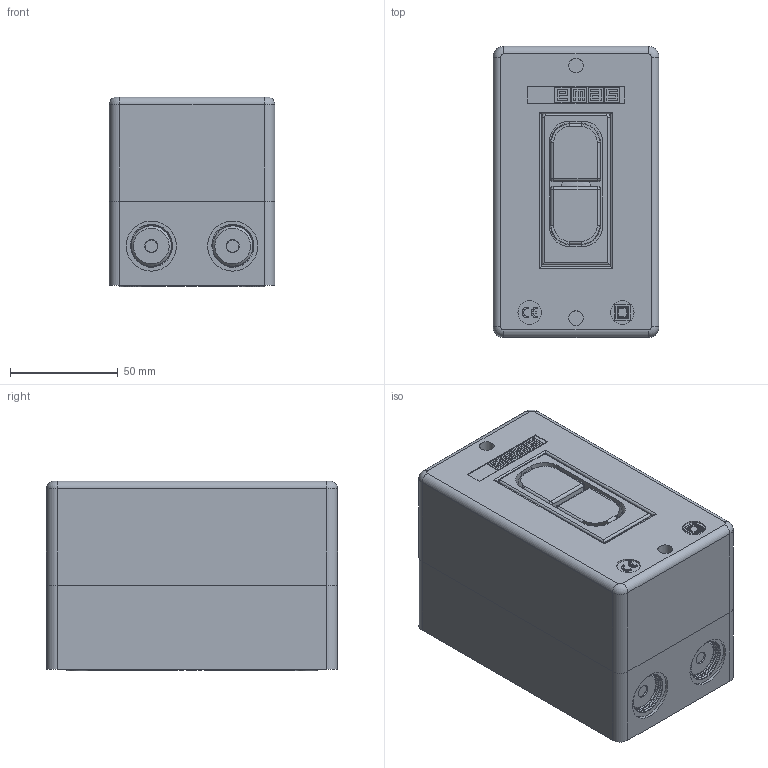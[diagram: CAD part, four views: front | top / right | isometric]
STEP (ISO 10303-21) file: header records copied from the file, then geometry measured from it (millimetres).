
FILE_DESCRIPTION((''),'2; 1');
FILE_NAME('','2026-03-27T11:31:39',(''),(''),'CST STEP Exporter V1.0','Unknown','');
FILE_SCHEMA(('CONFIG_CONTROL_DESIGN'));
Length unit declared in the file: metre
Assembly tree (9 placements, depth 2):
  (unnamed)
    (unnamed)
    (unnamed)
    (unnamed)
    (unnamed)
    (unnamed)
    (unnamed)
    (unnamed)
    (unnamed)
    (unnamed)
Bounding box: 76.8 x 134.8 x 87.9 mm (x, y, z)
Surface area: 127815 mm2 (no closed solid volume)
Topology: 0 solids, 13 shells, 311 faces, 968 edges, 647 vertices
Faces by surface type: plane 183, cylinder 65, extrusion 24, cone 12, bspline 12, torus 11, sphere 4
Full cylindrical faces by diameter (mm): 4.9 x4, 5 x4, 6.8 x2, 10.5 x4, 10.9 x2, 23.2 x4
Entity records: 15477 total; most frequent: CARTESIAN_POINT 4831, DIRECTION 1539, ORIENTED_EDGE 1477, EDGE_CURVE 909, VECTOR 653, LINE 629, VERTEX_POINT 629, AXIS2_PLACEMENT_3D 443
